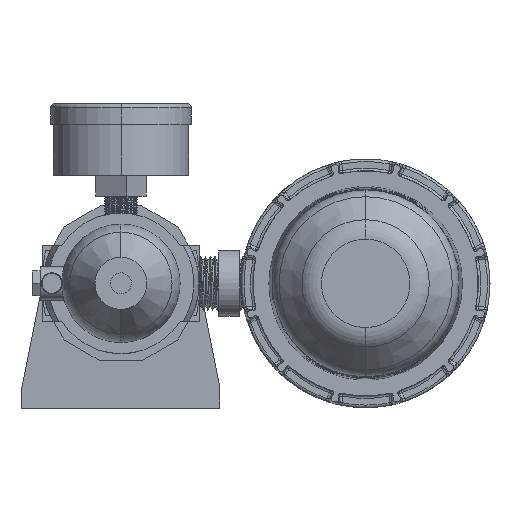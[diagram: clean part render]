
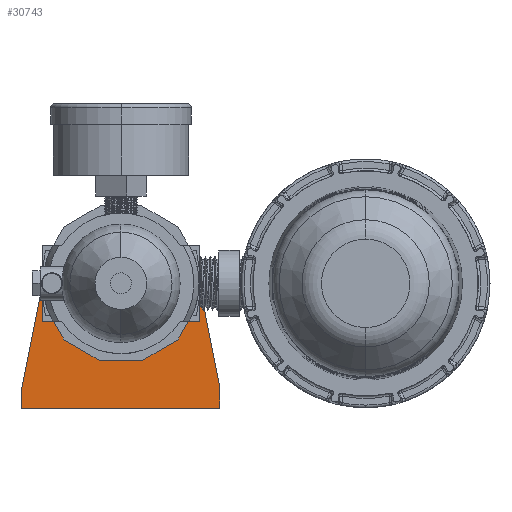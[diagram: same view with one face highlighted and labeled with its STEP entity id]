
A CAD part, front view. The second image highlights one B-rep face of the part: STEP entity #30743.
In plain terms, the highlighted planar face has unit normal (0, -1, 0).
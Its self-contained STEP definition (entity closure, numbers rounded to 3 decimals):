
#1432 = DIRECTION ( 'NONE',  ( 0., 1., 0. ) ) ;
#1896 = EDGE_CURVE ( 'NONE', #32175, #36372, #21908, .T. ) ;
#2444 = CARTESIAN_POINT ( 'NONE',  ( 38., 0., -40. ) ) ;
#2608 = CARTESIAN_POINT ( 'NONE',  ( 0., 0., 0. ) ) ;
#2853 = CIRCLE ( 'NONE', #41643, 29.5 ) ;
#3374 = AXIS2_PLACEMENT_3D ( 'NONE', #32841, #1432, #6284 ) ;
#4388 = DIRECTION ( 'NONE',  ( 0., 0., 1. ) ) ;
#4489 = EDGE_CURVE ( 'NONE', #48766, #25734, #34327, .T. ) ;
#4665 = EDGE_CURVE ( 'NONE', #25734, #22004, #2853, .T. ) ;
#6284 = DIRECTION ( 'NONE',  ( 0., 0., 1. ) ) ;
#7359 = CARTESIAN_POINT ( 'NONE',  ( -28.937, 0., 5.734 ) ) ;
#9284 = DIRECTION ( 'NONE',  ( 0., 0., 1. ) ) ;
#9615 = FACE_OUTER_BOUND ( 'NONE', #20959, .T. ) ;
#10071 = AXIS2_PLACEMENT_3D ( 'NONE', #49554, #49345, #9284 ) ;
#10661 = CARTESIAN_POINT ( 'NONE',  ( 38., 0., -40. ) ) ;
#13165 = CARTESIAN_POINT ( 'NONE',  ( 38., 0., -48. ) ) ;
#13867 = EDGE_CURVE ( 'NONE', #36372, #32175, #52203, .T. ) ;
#13885 = VECTOR ( 'NONE', #14525, 1000. ) ;
#14499 = EDGE_LOOP ( 'NONE', ( #23971, #33031 ) ) ;
#14525 = DIRECTION ( 'NONE',  ( 0., 0., 1. ) ) ;
#14643 = LINE ( 'NONE', #23258, #13885 ) ;
#15430 = EDGE_CURVE ( 'NONE', #22004, #51512, #30424, .T. ) ;
#17671 = DIRECTION ( 'NONE',  ( 0., 0., -1. ) ) ;
#17846 = LINE ( 'NONE', #40580, #34591 ) ;
#19073 = CARTESIAN_POINT ( 'NONE',  ( 0., 0., 24. ) ) ;
#20764 = CARTESIAN_POINT ( 'NONE',  ( 28.937, 0., 5.734 ) ) ;
#20956 = DIRECTION ( 'NONE',  ( 0., 1., 0. ) ) ;
#20959 = EDGE_LOOP ( 'NONE', ( #35633, #31414, #34030, #49302, #44648, #38666 ) ) ;
#21908 = CIRCLE ( 'NONE', #10071, 24. ) ;
#21923 = DIRECTION ( 'NONE',  ( 0., 0., 1. ) ) ;
#22004 = VERTEX_POINT ( 'NONE', #20764 ) ;
#22960 = CARTESIAN_POINT ( 'NONE',  ( 38., 0., -48. ) ) ;
#23258 = CARTESIAN_POINT ( 'NONE',  ( -38., 0., -48. ) ) ;
#23971 = ORIENTED_EDGE ( 'NONE', *, *, #1896, .T. ) ;
#25734 = VERTEX_POINT ( 'NONE', #7359 ) ;
#26045 = DIRECTION ( 'NONE',  ( 0.194, 0., 0.981 ) ) ;
#27440 = CARTESIAN_POINT ( 'NONE',  ( -38., 0., -40. ) ) ;
#28148 = PLANE ( 'NONE',  #3374 ) ;
#29002 = VECTOR ( 'NONE', #52440, 1000. ) ;
#29290 = VERTEX_POINT ( 'NONE', #33783 ) ;
#30424 = LINE ( 'NONE', #2444, #29002 ) ;
#30743 = ADVANCED_FACE ( 'NONE', ( #52336, #9615 ), #28148, .F. ) ;
#31414 = ORIENTED_EDGE ( 'NONE', *, *, #50488, .F. ) ;
#31506 = VECTOR ( 'NONE', #17671, 1000. ) ;
#32175 = VERTEX_POINT ( 'NONE', #19073 ) ;
#32841 = CARTESIAN_POINT ( 'NONE',  ( 0., 0., 0. ) ) ;
#33031 = ORIENTED_EDGE ( 'NONE', *, *, #13867, .T. ) ;
#33783 = CARTESIAN_POINT ( 'NONE',  ( -38., 0., -48. ) ) ;
#34030 = ORIENTED_EDGE ( 'NONE', *, *, #35149, .F. ) ;
#34327 = LINE ( 'NONE', #48564, #56720 ) ;
#34591 = VECTOR ( 'NONE', #35911, 1000. ) ;
#35149 = EDGE_CURVE ( 'NONE', #52057, #29290, #17846, .T. ) ;
#35633 = ORIENTED_EDGE ( 'NONE', *, *, #4489, .F. ) ;
#35911 = DIRECTION ( 'NONE',  ( -1., 0., 0. ) ) ;
#36209 = DIRECTION ( 'NONE',  ( 0., 1., 0. ) ) ;
#36372 = VERTEX_POINT ( 'NONE', #41978 ) ;
#38666 = ORIENTED_EDGE ( 'NONE', *, *, #4665, .F. ) ;
#40580 = CARTESIAN_POINT ( 'NONE',  ( -38., 0., -48. ) ) ;
#41643 = AXIS2_PLACEMENT_3D ( 'NONE', #48742, #36209, #4388 ) ;
#41978 = CARTESIAN_POINT ( 'NONE',  ( 0., 0., -24. ) ) ;
#44648 = ORIENTED_EDGE ( 'NONE', *, *, #15430, .F. ) ;
#47129 = AXIS2_PLACEMENT_3D ( 'NONE', #2608, #20956, #21923 ) ;
#48564 = CARTESIAN_POINT ( 'NONE',  ( -38., 0., -40. ) ) ;
#48742 = CARTESIAN_POINT ( 'NONE',  ( 0., 0., 0. ) ) ;
#48766 = VERTEX_POINT ( 'NONE', #27440 ) ;
#49302 = ORIENTED_EDGE ( 'NONE', *, *, #52530, .F. ) ;
#49345 = DIRECTION ( 'NONE',  ( 0., 1., 0. ) ) ;
#49554 = CARTESIAN_POINT ( 'NONE',  ( 0., 0., 0. ) ) ;
#50488 = EDGE_CURVE ( 'NONE', #29290, #48766, #14643, .T. ) ;
#51512 = VERTEX_POINT ( 'NONE', #10661 ) ;
#51776 = LINE ( 'NONE', #13165, #31506 ) ;
#52057 = VERTEX_POINT ( 'NONE', #22960 ) ;
#52203 = CIRCLE ( 'NONE', #47129, 24. ) ;
#52336 = FACE_BOUND ( 'NONE', #14499, .T. ) ;
#52440 = DIRECTION ( 'NONE',  ( 0.194, 0., -0.981 ) ) ;
#52530 = EDGE_CURVE ( 'NONE', #51512, #52057, #51776, .T. ) ;
#56720 = VECTOR ( 'NONE', #26045, 1000. ) ;
